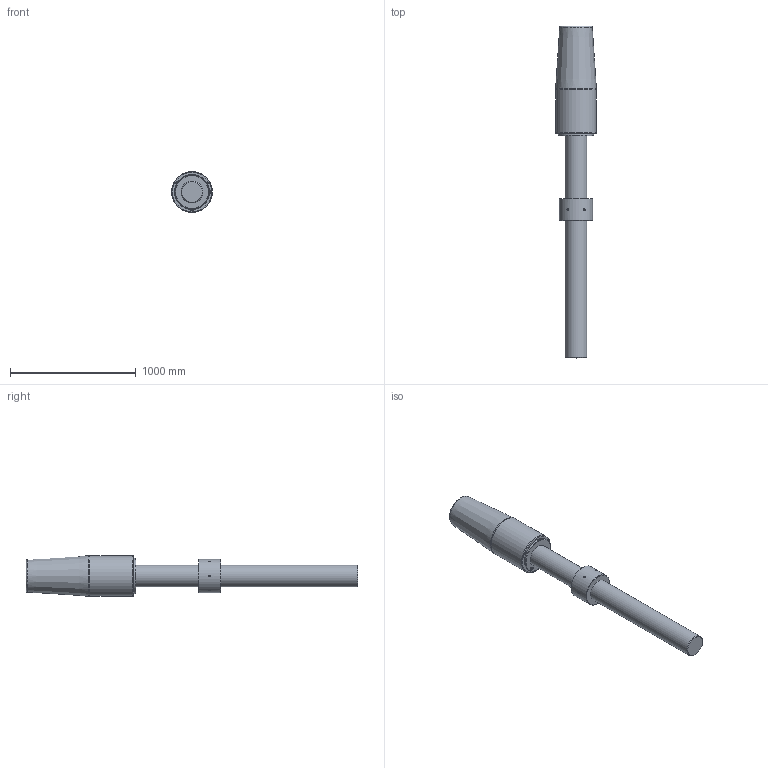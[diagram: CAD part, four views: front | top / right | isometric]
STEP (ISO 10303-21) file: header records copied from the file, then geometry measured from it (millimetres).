
FILE_DESCRIPTION(/* description */ (''),/* implementation_level */ '2;1');
FILE_NAME(/* name */ 'D:\Clienti\Redaelli (inventor)\CYB\STEP\Arrangement\CYB112 52 061 0.stp',/* time_stamp */ '2021-05-08T14:55:48+02:00',/* author */ ('fabri'),/* organization */ (''),/* preprocessor_version */ 'ST-DEVELOPER v16.13',/* originating_system */ 'Autodesk Inventor 2018',/* authorisation */ '');
FILE_SCHEMA (('AUTOMOTIVE_DESIGN { 1 0 10303 214 3 1 1 }'));
Length unit declared in the file: millimetre
Products named in the file (5): CYB112 52 061 0; RNT052 41 051 0_ROD; RNT052 41 051 0_ROD_1; CCY021-51-061-0_BUSH; CCY021-51-061-0
Assembly tree (4 placements, depth 2):
  CYB112 52 061 0
    RNT052 41 051 0_ROD
    RNT052 41 051 0_ROD_1
    CCY021-51-061-0_BUSH
    CCY021-51-061-0
Bounding box: 325 x 2644 x 325 mm (x, y, z)
Volume: 122987988.4 mm3; surface area: 2796442.6 mm2
Topology: 4 solids, 4 shells, 671 faces, 1812 edges, 1203 vertices
Faces by surface type: plane 345, bspline 288, cylinder 18, cone 16, torus 4
Full cylindrical faces by diameter (mm): 15 x6, 17.294 x3, 168.505 x2, 175 x1, 177 x1, 238 x1, 250 x1, 265 x1, 280 x1, 325 x1
Entity records: 22460 total; most frequent: CARTESIAN_POINT 7605, ORIENTED_EDGE 3526, DIRECTION 2003, EDGE_CURVE 1763, VERTEX_POINT 1193, LINE 1133, VECTOR 1133, EDGE_LOOP 768
